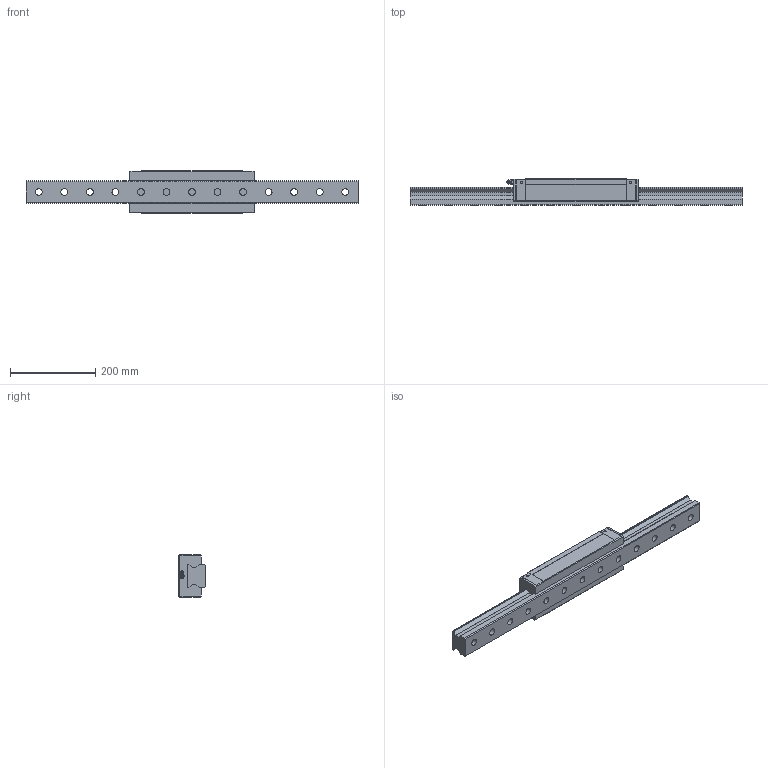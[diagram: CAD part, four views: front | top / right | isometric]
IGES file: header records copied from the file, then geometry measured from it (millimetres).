
Start section: Data from Parasolid IGES Translator 26.0.171, Copyright(c) 2006 Siemens PLM Software. All Rights Reserved.
Global section: file name: SRN55SLR1SS-780L_G30_0_B-PT18_244_0_0_0_1.igs; native system: By Siemens PLM Incorporated; preprocessor: XPlus GENERIC/IGES 26.0.171; author: Noname; organization: Noname; date: 20240523.105837; units: millimetre
Bounding box: 780 x 63 x 100 mm (x, y, z)
Surface area: 313998 mm2 (no closed solid volume)
Topology: 0 solids, 0 shells, 218 faces, 1114 edges, 996 vertices
Faces by surface type: extrusion 128, revolution 90
